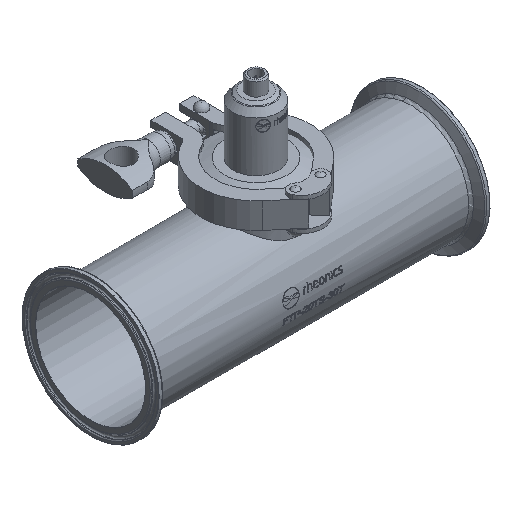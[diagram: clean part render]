
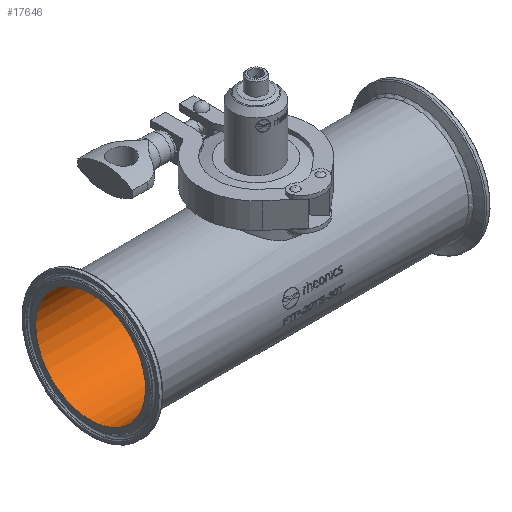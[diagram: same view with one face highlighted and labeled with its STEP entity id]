
A CAD part, isometric view. The second image highlights one B-rep face of the part: STEP entity #17646.
In plain terms, the highlighted cylindrical face has radius 36.45 mm (diameter 72.9 mm), a full revolution.
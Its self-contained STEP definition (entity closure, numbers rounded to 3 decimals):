
#2207=CIRCLE('',#18477,36.45);
#2208=CIRCLE('',#18478,36.45);
#2619=ORIENTED_EDGE('',*,*,#6417,.T.);
#2620=ORIENTED_EDGE('',*,*,#6418,.T.);
#2621=ORIENTED_EDGE('',*,*,#6419,.T.);
#6417=EDGE_CURVE('',#8316,#8316,#9618,.T.);
#6418=EDGE_CURVE('',#8317,#8317,#2207,.F.);
#6419=EDGE_CURVE('',#8318,#8318,#2208,.F.);
#8316=VERTEX_POINT('',#22043);
#8317=VERTEX_POINT('',#22045);
#8318=VERTEX_POINT('',#22047);
#9618=B_SPLINE_CURVE_WITH_KNOTS('',3,(#21996,#21997,#21998,#21999,#22000,
#22001,#22002,#22003,#22004,#22005,#22006,#22007,#22008,#22009,#22010,#22011,
#22012,#22013,#22014,#22015,#22016,#22017,#22018,#22019,#22020,#22021,#22022,
#22023,#22024,#22025,#22026,#22027,#22028,#22029,#22030,#22031,#22032,#22033,
#22034,#22035,#22036,#22037,#22038,#22039,#22040,#22041,#22042),
 .UNSPECIFIED.,.T.,.F.,(1,1,1,1,1,1,1,1,1,1,1,1,1,1,1,1,1,1,1,1,1,1,1,1,
1,1,1,1,1,1,1,1,1,1,1,1,1,1,1,1,1,1,1,1,1,1,1,1,1,1,1),(-0.01,
-0.005,-0.003,0.,0.003,
0.005,0.01,0.013,0.015,
0.02,0.025,0.03,0.035,
0.038,0.04,0.043,0.046,
0.051,0.056,0.061,0.063,
0.066,0.068,0.071,0.076,
0.081,0.084,0.086,0.091,
0.094,0.096,0.101,0.106,
0.111,0.114,0.116,0.121,
0.124,0.127,0.132,0.137,
0.142,0.144,0.147,0.152,
0.157,0.159,0.162,0.164,
0.167,0.172),.UNSPECIFIED.);
#10341=EDGE_LOOP('',(#2619));
#10342=EDGE_LOOP('',(#2620));
#10343=EDGE_LOOP('',(#2621));
#11374=FACE_BOUND('',#10341,.T.);
#11375=FACE_BOUND('',#10342,.T.);
#11376=FACE_BOUND('',#10343,.T.);
#12407=CYLINDRICAL_SURFACE('',#18476,36.45);
#17646=ADVANCED_FACE('',(#11374,#11375,#11376),#12407,.F.);
#18476=AXIS2_PLACEMENT_3D('',#21995,#19402,#19403);
#18477=AXIS2_PLACEMENT_3D('',#22044,#19404,#19405);
#18478=AXIS2_PLACEMENT_3D('',#22046,#19406,#19407);
#19402=DIRECTION('',(-1.,0.,0.));
#19403=DIRECTION('',(0.,0.,-1.));
#19404=DIRECTION('',(1.,0.,0.));
#19405=DIRECTION('',(0.,0.924,0.382));
#19406=DIRECTION('',(-1.,0.,0.));
#19407=DIRECTION('',(0.,0.,1.));
#21995=CARTESIAN_POINT('',(77.849,0.,0.));
#21996=CARTESIAN_POINT('',(22.76,-2.564,36.389));
#21997=CARTESIAN_POINT('',(22.893,0.002,36.48));
#21998=CARTESIAN_POINT('',(22.76,2.555,36.389));
#21999=CARTESIAN_POINT('',(22.252,5.866,36.042));
#22000=CARTESIAN_POINT('',(21.238,9.092,35.358));
#22001=CARTESIAN_POINT('',(19.818,12.013,34.438));
#22002=CARTESIAN_POINT('',(18.12,14.786,33.372));
#22003=CARTESIAN_POINT('',(15.585,17.831,31.868));
#22004=CARTESIAN_POINT('',(11.894,20.861,29.949));
#22005=CARTESIAN_POINT('',(7.737,23.131,28.205));
#22006=CARTESIAN_POINT('',(3.766,24.39,27.093));
#22007=CARTESIAN_POINT('',(0.456,24.907,26.613));
#22008=CARTESIAN_POINT('',(-2.122,25.044,26.484));
#22009=CARTESIAN_POINT('',(-4.644,24.918,26.603));
#22010=CARTESIAN_POINT('',(-7.994,24.41,27.075));
#22011=CARTESIAN_POINT('',(-11.943,23.175,28.17));
#22012=CARTESIAN_POINT('',(-16.177,20.875,29.939));
#22013=CARTESIAN_POINT('',(-19.216,18.39,31.517));
#22014=CARTESIAN_POINT('',(-21.376,16.041,32.752));
#22015=CARTESIAN_POINT('',(-22.81,14.145,33.616));
#22016=CARTESIAN_POINT('',(-24.072,12.103,34.407));
#22017=CARTESIAN_POINT('',(-25.522,9.143,35.346));
#22018=CARTESIAN_POINT('',(-26.785,5.179,36.197));
#22019=CARTESIAN_POINT('',(-27.236,0.898,36.508));
#22020=CARTESIAN_POINT('',(-27.073,-2.468,36.396));
#22021=CARTESIAN_POINT('',(-26.561,-5.853,36.046));
#22022=CARTESIAN_POINT('',(-25.568,-9.025,35.376));
#22023=CARTESIAN_POINT('',(-24.127,-12.003,34.442));
#22024=CARTESIAN_POINT('',(-22.448,-14.75,33.387));
#22025=CARTESIAN_POINT('',(-19.877,-17.841,31.863));
#22026=CARTESIAN_POINT('',(-16.239,-20.835,29.967));
#22027=CARTESIAN_POINT('',(-12.692,-22.77,28.482));
#22028=CARTESIAN_POINT('',(-9.65,-23.891,27.534));
#22029=CARTESIAN_POINT('',(-6.405,-24.736,26.779));
#22030=CARTESIAN_POINT('',(-3.035,-25.088,26.442));
#22031=CARTESIAN_POINT('',(0.403,-24.913,26.608));
#22032=CARTESIAN_POINT('',(3.718,-24.402,27.082));
#22033=CARTESIAN_POINT('',(7.692,-23.153,28.188));
#22034=CARTESIAN_POINT('',(11.894,-20.862,29.948));
#22035=CARTESIAN_POINT('',(14.96,-18.345,31.543));
#22036=CARTESIAN_POINT('',(17.098,-16.012,32.766));
#22037=CARTESIAN_POINT('',(19.039,-13.433,33.937));
#22038=CARTESIAN_POINT('',(20.969,-9.927,35.178));
#22039=CARTESIAN_POINT('',(22.248,-5.89,36.039));
#22040=CARTESIAN_POINT('',(22.76,-2.564,36.389));
#22041=CARTESIAN_POINT('',(22.893,0.002,36.48));
#22042=CARTESIAN_POINT('',(22.76,2.555,36.389));
#22043=CARTESIAN_POINT('',(22.849,0.,36.45));
#22044=CARTESIAN_POINT('',(-112.001,0.,0.));
#22045=CARTESIAN_POINT('',(-112.001,33.688,13.918));
#22046=CARTESIAN_POINT('',(107.699,0.,0.));
#22047=CARTESIAN_POINT('',(107.699,0.,36.45));
